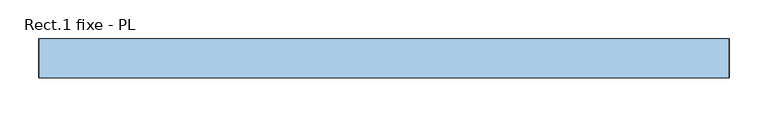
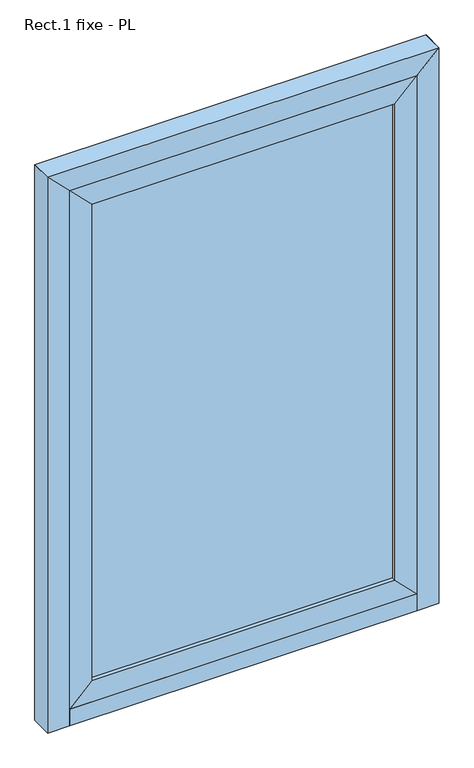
"""IFC4 building model written with IfcOpenShell, lengths in millimetres: window geometry, Rect.1 fixe - PL : 89*117."""

import ifcopenshell
import ifcopenshell.guid

model = None  # the IFC model being written
_history = None  # IfcOwnerHistory: only IFC2X3 demands one
_inside = {}  # id of a spatial element -> (the spatial element, [elements in it])
_under = {}  # id of a project, library or spatial element -> (it, [spatial elements below it])
_declared = {}  # id of a project -> (the project, [libraries it declares])
_typed = {}  # id of a type object -> (the type object, [elements of that type])
_made_of = {}  # id of a material, layer set ... -> (it, [elements and type objects made of it])


def new_model(schema):
    """Start an empty IFC model of exactly this schema.

    Asked for "IFC4X3", IfcOpenShell would pick the latest addendum, in which some entities
    have other attributes; the version numbers below select the first issue.
    IFC2X3 requires an IfcOwnerHistory on every rooted entity: one is made here for all.
    """
    global model, _history
    if schema == "IFC4X3":
        model = ifcopenshell.file(schema_version=(4, 3, 0, 0))
    else:
        model = ifcopenshell.file(schema=schema)
    _inside.clear()
    _under.clear()
    _declared.clear()
    _typed.clear()
    _made_of.clear()
    _history = None
    if model.schema == "IFC2X3":
        org = make("IfcOrganization", Name="unknown")
        user = make(
            "IfcPersonAndOrganization",
            ThePerson=make("IfcPerson", FamilyName="unknown"),
            TheOrganization=org,
        )
        app = make(
            "IfcApplication",
            ApplicationDeveloper=org,
            Version="unknown",
            ApplicationFullName="unknown",
            ApplicationIdentifier="unknown",
        )
        _history = make(
            "IfcOwnerHistory",
            OwningUser=user,
            OwningApplication=app,
            ChangeAction="ADDED",
            CreationDate=0,
        )
    return model


def make(cls, **values):
    """One entity of the class cls with the attributes given. An attribute that is None is left unset."""
    return model.create_entity(
        cls, **{name: value for name, value in values.items() if value is not None}
    )


def rooted(cls, **values):
    """An entity with a GlobalId (a new one), such as an element, a storey or a relation."""
    return make(cls, GlobalId=ifcopenshell.guid.new(), OwnerHistory=_history, **values)


def si_unit(unit_type, name, prefix=None):
    """IfcSIUnit, for example si_unit("LENGTHUNIT", "METRE", prefix="MILLI")."""
    return make("IfcSIUnit", UnitType=unit_type, Prefix=prefix, Name=name)


def assignment(units):
    """IfcUnitAssignment: the units of a project."""
    return None if units is None else make("IfcUnitAssignment", Units=units)


def point(xyz):
    """IfcCartesianPoint."""
    return None if xyz is None else make("IfcCartesianPoint", Coordinates=xyz)


def direction(xyz):
    """IfcDirection."""
    return None if xyz is None else make("IfcDirection", DirectionRatios=xyz)


def frame(location, z_axis=None, x_axis=None):
    """IfcAxis2Placement3D, a coordinate frame: its origin and axes. An axis left out is left unset."""
    return make(
        "IfcAxis2Placement3D",
        Location=point(location),
        Axis=direction(z_axis),
        RefDirection=direction(x_axis),
    )


def origin():
    """The frame at (0, 0, 0) with its axes left unset."""
    return frame((0.0, 0.0, 0.0))


def origin_with_axes():
    """The frame at (0, 0, 0) with the z axis (0, 0, 1) and the x axis (1, 0, 0) written out."""
    return frame((0.0, 0.0, 0.0), z_axis=(0.0, 0.0, 1.0), x_axis=(1.0, 0.0, 0.0))


def place(relative_to, where):
    """IfcLocalPlacement: puts the frame where relative to a parent placement (None: the world)."""
    return make(
        "IfcLocalPlacement", PlacementRelTo=relative_to, RelativePlacement=where
    )


def context(
    kind, dimensions, precision=None, world=None, true_north=None, identifier=None
):
    """IfcGeometricRepresentationContext, for example the 3D "Model" context."""
    return make(
        "IfcGeometricRepresentationContext",
        ContextIdentifier=identifier,
        ContextType=kind,
        CoordinateSpaceDimension=dimensions,
        Precision=precision,
        WorldCoordinateSystem=world,
        TrueNorth=true_north,
    )


def project(units=None, contexts=None):
    """IfcProject with its units and contexts."""
    return rooted(
        "IfcProject",
        Name="project",
        RepresentationContexts=contexts,
        UnitsInContext=assignment(units),
    )


def spatial(cls, under=None, at=None, **own):
    """A site, building, storey or space (cls), placed at a placement, below another one or the project."""
    s = rooted(cls, ObjectPlacement=at, **own)
    if under is not None:
        _under.setdefault(under.id(), (under, []))[1].append(s)
    return s


def polyline(points):
    """IfcPolyline through the points."""
    return make("IfcPolyline", Points=[point(p) for p in points])


def outline(outer, holes=None, kind="AREA"):
    """IfcArbitraryClosedProfileDef: a profile drawn as a closed curve; with holes, ...WithVoids."""
    if holes is None:
        return make("IfcArbitraryClosedProfileDef", ProfileType=kind, OuterCurve=outer)
    return make(
        "IfcArbitraryProfileDefWithVoids",
        ProfileType=kind,
        OuterCurve=outer,
        InnerCurves=holes,
    )


def extrude(swept, where, along, depth):
    """IfcExtrudedAreaSolid: the profile swept, set in the frame where, extruded along a direction by depth."""
    return make(
        "IfcExtrudedAreaSolid",
        SweptArea=swept,
        Position=where,
        ExtrudedDirection=direction(along),
        Depth=depth,
    )


def shape(context_of_items, identifier, shape_type, items):
    """IfcShapeRepresentation: the items that make up one representation, for example the "Body"."""
    return make(
        "IfcShapeRepresentation",
        ContextOfItems=context_of_items,
        RepresentationIdentifier=identifier,
        RepresentationType=shape_type,
        Items=items,
    )


def source(mapping_origin, context_of_items, identifier, shape_type, items):
    """IfcRepresentationMap: a shape defined once, which mapped items show again and again."""
    return make(
        "IfcRepresentationMap",
        MappingOrigin=mapping_origin,
        MappedRepresentation=shape(context_of_items, identifier, shape_type, items),
    )


def transform(
    local_origin,
    x_axis=None,
    y_axis=None,
    z_axis=None,
    scale=None,
    scale2=None,
    scale3=None,
    uniform=True,
):
    """IfcCartesianTransformationOperator3D, or its non-uniform kind. x_axis, y_axis, z_axis: its Axis1, 2, 3."""
    if uniform:
        return make(
            "IfcCartesianTransformationOperator3D",
            Axis1=direction(x_axis),
            Axis2=direction(y_axis),
            LocalOrigin=point(local_origin),
            Scale=scale,
            Axis3=direction(z_axis),
        )
    return make(
        "IfcCartesianTransformationOperator3DnonUniform",
        Axis1=direction(x_axis),
        Axis2=direction(y_axis),
        LocalOrigin=point(local_origin),
        Scale=scale,
        Axis3=direction(z_axis),
        Scale2=scale2,
        Scale3=scale3,
    )


def mapped(mapping_source, mapping_target):
    """IfcMappedItem: shows the shape of a source again, moved by a transform."""
    return make(
        "IfcMappedItem", MappingSource=mapping_source, MappingTarget=mapping_target
    )


def made_of(thing, what):
    """Note that an element or type object is made of a material, layer set ...; save() writes the relation."""
    if what is not None:
        _made_of.setdefault(what.id(), (what, []))[1].append(thing)
    return thing


def element(
    cls,
    number,
    at=None,
    inside=None,
    cuts=None,
    type_object=None,
    material=None,
    context=None,
    identifier="Body",
    shape_type=None,
    held_by="IfcProductDefinitionShape",
    body=None,
    shapes=None,
    **own,
):
    """One element of the class cls, such as IfcWall. Its Tag is "e" and its number.

    at: its placement. inside: the storey or other place that contains it. cuts: it is an
    opening in that element (IfcRelVoidsElement). A single representation is given by context,
    identifier, shape_type and body (its items); several are given by shapes. held_by: the class
    of the entity that holds the representations. save() writes the other relations.
    """
    e = rooted(cls, Tag="e%d" % number, ObjectPlacement=at, **own)
    if body is not None:
        shapes = [shape(context, identifier, shape_type, body)]
    if shapes is not None:
        e.Representation = make(held_by, Representations=shapes)
    if inside is not None:
        _inside.setdefault(inside.id(), (inside, []))[1].append(e)
    if cuts is not None:
        rooted(
            "IfcRelVoidsElement", RelatingBuildingElement=cuts, RelatedOpeningElement=e
        )
    if type_object is not None:
        _typed.setdefault(type_object.id(), (type_object, []))[1].append(e)
    return made_of(e, material)


def aggregate(whole, parts):
    """IfcRelAggregates: a whole, such as a stair, and the parts it consists of."""
    return rooted("IfcRelAggregates", RelatingObject=whole, RelatedObjects=parts)


def save(model, path):
    """Write the relations noted so far, then the file.

    IfcRelAggregates (storeys below a building ...), IfcRelContainedInSpatialStructure (elements
    in a storey), IfcRelDefinesByType, IfcRelAssociatesMaterial and IfcRelDeclares: one each for
    every whole, place, type object, material and project.
    """
    for whole, parts in _under.values():
        aggregate(whole, parts)
    for where, things in _inside.values():
        rooted(
            "IfcRelContainedInSpatialStructure",
            RelatedElements=things,
            RelatingStructure=where,
        )
    for kind, things in _typed.values():
        rooted("IfcRelDefinesByType", RelatedObjects=things, RelatingType=kind)
    for what, things in _made_of.values():
        rooted("IfcRelAssociatesMaterial", RelatedObjects=things, RelatingMaterial=what)
    for by, libraries in _declared.values():
        rooted("IfcRelDeclares", RelatingContext=by, RelatedDefinitions=libraries)
    model.write(path)


def rect_1_fixe_pl_f0808ed2(model_context):
    return source(origin(), model_context, "Body", "SweptSolid", [
        extrude(outline(polyline([(344.15, 10.0), (-344.15, 10.0), (-344.15, 30.0), (344.15, 30.0), (344.15, 10.0)])), frame((0.0, 0.0, 90.0), z_axis=(0.0, 0.0, 1.0), x_axis=(1.0, 0.0, 0.0)), (0.0, 0.0, 1.0), 1142.5),
        extrude(outline(polyline([(40.0, -394.15), (90.0, -344.15), (1232.5, -344.15), (1282.5, -394.15), (40.0, -394.15)])), frame((0.0, 0.0, 0.0), z_axis=(0.0, 1.0, 0.0), x_axis=(0.0, 0.0, 1.0)), (0.0, 0.0, 1.0), 40.0),
        extrude(outline(polyline([(90.0, 344.15), (40.0, 394.15), (1282.5, 394.15), (1232.5, 344.15), (90.0, 344.15)])), frame((0.0, 0.0, 0.0), z_axis=(0.0, 1.0, 0.0), x_axis=(0.0, 0.0, 1.0)), (0.0, 0.0, 1.0), 40.0),
        extrude(outline(polyline([(1282.5, 394.15), (1282.5, -394.15), (1232.5, -344.15), (1232.5, 344.15), (1282.5, 394.15)])), frame((0.0, 0.0, 0.0), z_axis=(0.0, 1.0, 0.0), x_axis=(0.0, 0.0, 1.0)), (0.0, 0.0, 1.0), 40.0),
        extrude(outline(polyline([(40.0, 394.15), (90.0, 344.15), (90.0, -344.15), (40.0, -394.15), (40.0, 394.15)])), frame((0.0, 0.0, 0.0), z_axis=(0.0, 1.0, 0.0), x_axis=(0.0, 0.0, 1.0)), (0.0, 0.0, 1.0), 40.0),
        extrude(outline(polyline([(394.15, 50.0), (394.15, 0.0), (-394.15, 0.0), (-394.15, 50.0), (394.15, 50.0)])), origin_with_axes(), (0.0, 0.0, 1.0), 40.0),
        extrude(outline(polyline([(20.0, 30.0), (50.0, 40.0), (50.0, 0.0), (20.0, 0.0), (20.0, 30.0)])), frame((-414.15, 0.0, 0.0), z_axis=(1.0, 0.0, 0.0), x_axis=(0.0, 1.0, 0.0)), (0.0, 0.0, 1.0), 828.3),
        extrude(outline(polyline([(1312.5, 424.15), (1302.5, 414.15), (0.0, 414.15), (0.0, 424.15), (1312.5, 424.15)])), frame((0.0, 10.0, 0.0), z_axis=(0.0, 1.0, 0.0), x_axis=(0.0, 0.0, 1.0)), (0.0, 0.0, 1.0), 40.0),
        extrude(outline(polyline([(1312.5, -424.15), (0.0, -424.15), (0.0, -414.15), (1302.5, -414.15), (1312.5, -424.15)])), frame((0.0, 10.0, 0.0), z_axis=(0.0, 1.0, 0.0), x_axis=(0.0, 0.0, 1.0)), (0.0, 0.0, 1.0), 40.0),
        extrude(outline(polyline([(0.0, -444.15), (0.0, -394.15), (1282.5, -394.15), (1332.5, -444.15), (0.0, -444.15)])), frame((0.0, 0.0, 0.0), z_axis=(0.0, 1.0, 0.0), x_axis=(0.0, 0.0, 1.0)), (0.0, 0.0, 1.0), 50.0),
        extrude(outline(polyline([(0.0, 444.15), (1332.5, 444.15), (1282.5, 394.15), (0.0, 394.15), (0.0, 444.15)])), frame((0.0, 0.0, 0.0), z_axis=(0.0, 1.0, 0.0), x_axis=(0.0, 0.0, 1.0)), (0.0, 0.0, 1.0), 50.0),
        extrude(outline(polyline([(1312.5, -424.15), (1302.5, -414.15), (1302.5, 414.15), (1312.5, 424.15), (1312.5, -424.15)])), frame((0.0, 10.0, 0.0), z_axis=(0.0, 1.0, 0.0), x_axis=(0.0, 0.0, 1.0)), (0.0, 0.0, 1.0), 40.0),
        extrude(outline(polyline([(1332.5, 444.15), (1332.5, -444.15), (1282.5, -394.15), (1282.5, 394.15), (1332.5, 444.15)])), frame((0.0, 0.0, 0.0), z_axis=(0.0, 1.0, 0.0), x_axis=(0.0, 0.0, 1.0)), (0.0, 0.0, 1.0), 50.0),
    ])


if __name__ == "__main__":
    model = new_model("IFC4")
    model_context = context("Model", 3, world=origin())
    ifc_project = project(units=[si_unit("LENGTHUNIT", "METRE", prefix="MILLI")], contexts=[model_context])
    site = spatial("IfcSite", under=ifc_project)
    building = spatial("IfcBuilding", under=site)
    placement = place(None, origin())
    rect_1_fixe_pl_shape = rect_1_fixe_pl_f0808ed2(model_context)
    element("IfcWindow", 1, ObjectType="Rect.1 fixe - PL : 89*117", at=placement, inside=building, context=model_context, shape_type="MappedRepresentation", body=[
        mapped(rect_1_fixe_pl_shape, transform((0.0, 0.0, 0.0), x_axis=(1.0, 0.0, 0.0), y_axis=(0.0, 1.0, 0.0), z_axis=(0.0, 0.0, 1.0))),
    ])
    save(model, "model.ifc")
